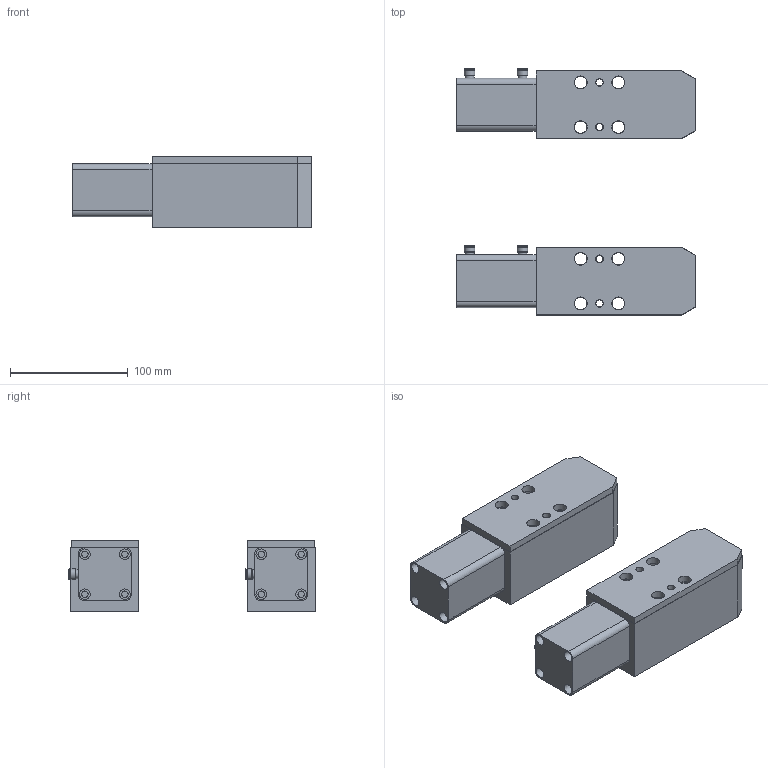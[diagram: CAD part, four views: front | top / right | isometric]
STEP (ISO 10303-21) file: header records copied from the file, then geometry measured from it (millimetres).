
FILE_DESCRIPTION(('STEP AP214'),'1');
FILE_NAME('step-1001.0025.stp','2020-12-10T08:51:07',(' '),(' '),'Spatial InterOp 3D',' ',' ');
FILE_SCHEMA(('AUTOMOTIVE_DESIGN { 1 0 10303 214 1 1 1 1 }'));
Length unit declared in the file: millimetre
Products named in the file (7): (PMS) 1001.0025; 3; 4; Assemblato; (PMI) 1001.0025; 1; 6
Assembly tree (6 placements, depth 3):
  Assemblato
    (PMS) 1001.0025
      3
      4
    (PMI) 1001.0025
      1
      6
Bounding box: 204 x 209.75 x 61 mm (x, y, z)
Volume: 1073190.2 mm3; surface area: 182376.5 mm2
Topology: 4 solids, 4 shells, 810 faces, 2106 edges, 1404 vertices
Faces by surface type: extrusion 376, plane 282, cylinder 134, torus 12, cone 4, sphere 2
Full cylindrical faces by diameter (mm): 5.5 x8, 6 x4, 6.5 x4, 6.8 x4, 7.5 x8, 9 x20, 10.5 x8, 11 x8, 16.9 x8, 25 x2
Entity records: 31378 total; most frequent: CARTESIAN_POINT 6517, ORIENTED_EDGE 3980, DIRECTION 2782, EDGE_CURVE 1990, VERTEX_POINT 1382, VECTOR 1328, B_SPLINE_CURVE_WITH_KNOTS 1130, EDGE_LOOP 1028
